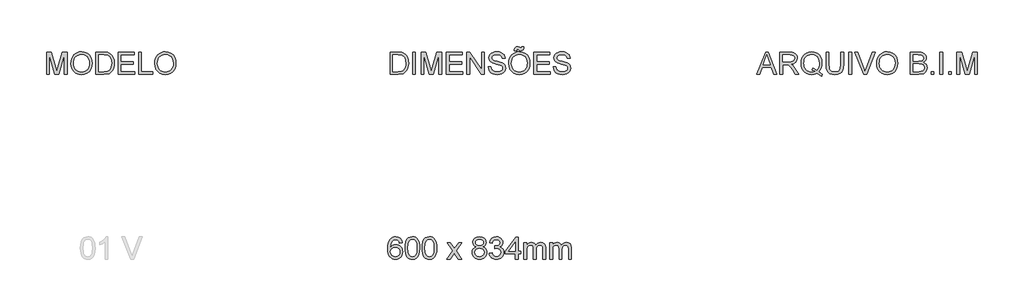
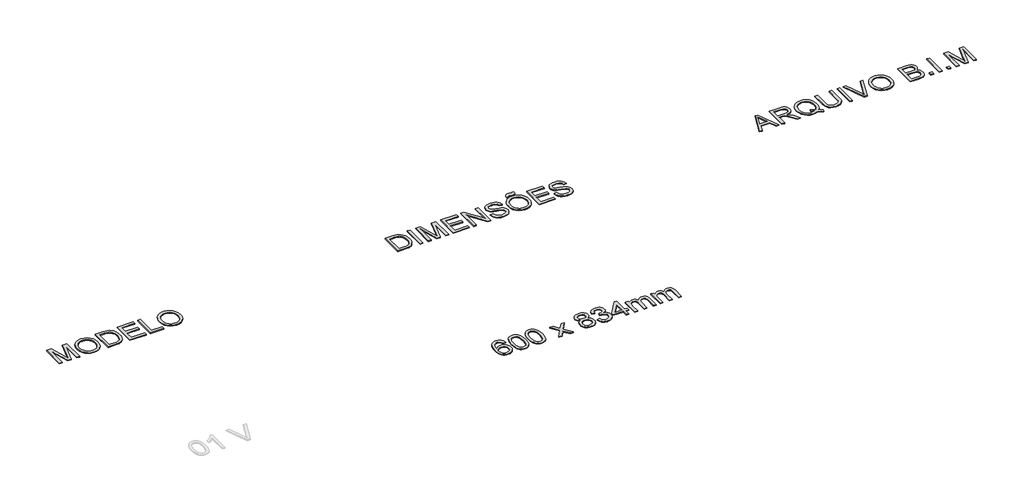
# One storey, part 62 of 67: 4 proxies.
"""IFC4 building model written with IfcOpenShell, lengths in millimetres."""

from ifc_helpers import new_model, si_unit, origin, origin_with_axes, place, context, project, spatial, polyline, outline, extrude, element, save

model = new_model("IFC4")

# Units and contexts
model_context = context("Model", 3, world=origin())
ifc_project = project(units=[si_unit("LENGTHUNIT", "METRE", prefix="MILLI")], contexts=[model_context])

# Site, building, storey
site = spatial("IfcSite", under=ifc_project)
building = spatial("IfcBuilding", under=site)
storey = spatial("IfcBuildingStorey", under=building, Name="Marelli - Linha COLAB - Planta Baixa", Elevation=0.0)

# Proxies
placement = place(None, origin())
element("IfcBuildingElementProxy", 1, Name="300mm Arial", ObjectType="300mm Arial", at=placement, inside=storey, context=model_context, shape_type="SweptSolid", body=[
    extrude(outline(polyline([(-25315.334731, 8719.4336799), (-25315.334731, 9020.8026104), (-25211.3712792, 9020.8026104), (-25157.5869315, 9016.4616028), (-25133.5642372, 9008.0922874), (-25113.2939393, 8994.9037179), (-25092.4534243, 8971.9478814), (-25077.6093858, 8943.4002386), (-25068.7250356, 8909.8126124), (-25065.7635855, 8871.7368259), (-25067.7685424, 8839.3908015), (-25073.783413, 8810.9259321), (-25082.9436747, 8786.6917057), (-25094.3848047, 8767.0376101), (-25107.5549802, 8751.522187), (-25121.902378, 8739.7039779), (-25138.3742943, 8730.9391893), (-25157.9180253, 8724.5840279), (-25206.3680841, 8719.4336799), (-25315.334731, 8719.4336799)]), holes=[polyline([(-25277.6636147, 8757.1047962), (-25211.0033972, 8757.1047962), (-25183.4306417, 8758.4659596), (-25162.5165502, 8762.5494498), (-25146.7344127, 8769.1161434), (-25134.5575186, 8777.9269172), (-25121.4701166, 8794.2332866), (-25111.6384703, 8815.3405161), (-25105.4856439, 8841.3405761), (-25103.4347018, 8872.3254371), (-25107.4538126, 8913.3810678), (-25119.511145, 8943.6945442), (-25137.3258306, 8964.5166651), (-25158.6170011, 8977.0982294), (-25180.2852506, 8981.6231779), (-25212.0334668, 8983.1314941), (-25277.6636147, 8983.1314941), (-25277.6636147, 8757.1047962)])]), origin_with_axes(), (0.0, 0.0, 1.0), 10.0),
    extrude(outline(polyline([(-25009.2569111, 8719.4336799), (-25009.2569111, 9020.8026104), (-24971.5857948, 9020.8026104), (-24971.5857948, 8719.4336799), (-25009.2569111, 8719.4336799)])), origin_with_axes(), (0.0, 0.0, 1.0), 10.0),
    extrude(outline(polyline([(-24896.2435621, 8719.4336799), (-24896.2435621, 9020.8026104), (-24831.4227546, 9020.8026104), (-24769.7657322, 8808.3875464), (-24757.3313208, 8764.0209777), (-24743.8668397, 8812.0663663), (-24683.2398869, 9020.8026104), (-24618.4190794, 9020.8026104), (-24618.4190794, 8719.4336799), (-24656.0901957, 8719.4336799), (-24656.0901957, 8983.1314941), (-24731.8003103, 8719.4336799), (-24782.8623312, 8719.4336799), (-24858.5724458, 8983.1314941), (-24858.5724458, 8719.4336799), (-24896.2435621, 8719.4336799)])), origin_with_axes(), (0.0, 0.0, 1.0), 10.0),
    extrude(outline(polyline([(-24552.4946258, 8719.4336799), (-24552.4946258, 9020.8026104), (-24335.8857071, 9020.8026104), (-24335.8857071, 8983.1314941), (-24514.8235095, 8983.1314941), (-24514.8235095, 8893.6625928), (-24345.3034862, 8893.6625928), (-24345.3034862, 8855.9914765), (-24514.8235095, 8855.9914765), (-24514.8235095, 8757.1047962), (-24331.1768175, 8757.1047962), (-24331.1768175, 8719.4336799), (-24552.4946258, 8719.4336799)])), origin_with_axes(), (0.0, 0.0, 1.0), 10.0),
    extrude(outline(polyline([(-24274.6701431, 8719.4336799), (-24274.6701431, 9020.8026104), (-24234.3502764, 9020.8026104), (-24076.8967825, 8782.0471955), (-24076.8967825, 9020.8026104), (-24039.2256662, 9020.8026104), (-24039.2256662, 8719.4336799), (-24079.5455328, 8719.4336799), (-24236.9990268, 8958.2626712), (-24236.9990268, 8719.4336799), (-24274.6701431, 8719.4336799)])), origin_with_axes(), (0.0, 0.0, 1.0), 10.0),
    extrude(outline(polyline([(-23987.4278813, 8823.0292498), (-23949.7567649, 8823.0292498), (-23945.4341515, 8802.1243554), (-23937.6166591, 8785.3213453), (-23925.421371, 8771.9856229), (-23907.9653703, 8761.482592), (-23886.6282146, 8754.667578), (-23862.7894613, 8752.3959067), (-23841.8017935, 8754.115755), (-23823.4260878, 8759.2753), (-23808.536064, 8767.4422803), (-23798.0054419, 8778.1844346), (-23791.742251, 8790.5176784), (-23789.6545206, 8803.4579276), (-23791.2180191, 8816.067083), (-23795.9085146, 8826.9655871), (-23805.4366582, 8836.2638046), (-23821.5131014, 8844.0720999), (-23876.3643069, 8858.4562859), (-23912.3707572, 8867.9752325), (-23935.4093671, 8877.0343267), (-23954.1621518, 8889.7078614), (-23967.4518889, 8905.0669347), (-23975.3705489, 8922.7804528), (-23978.0101022, 8942.5173218), (-23974.7451495, 8964.5810445), (-23964.9502913, 8985.154845), (-23948.8830452, 9002.5924516), (-23926.8009284, 9015.2475923), (-23900.2950307, 9022.945523), (-23870.9564416, 9025.5114999), (-23839.1714372, 9022.8259614), (-23811.3595584, 9014.7693457), (-23788.5140865, 9001.5071997), (-23771.6283029, 8983.2050705), (-23760.9413309, 8961.0033921), (-23756.6922939, 8936.0425987), (-23794.3634102, 8936.0425987), (-23801.2795917, 8958.5201886), (-23815.7005659, 8974.7437846), (-23838.2333381, 8984.5662339), (-23869.4849136, 8987.8403836), (-23901.4722531, 8984.6030221), (-23923.4164141, 8974.8909374), (-23936.1083429, 8960.5987219), (-23940.3389859, 8943.6209678), (-23937.3407476, 8929.1448113), (-23928.3460328, 8917.5013461), (-23907.0824535, 8907.0902857), (-23866.8361632, 8896.458496), (-23825.302286, 8886.3601352), (-23800.1759457, 8877.5493615), (-23778.7008342, 8863.8825453), (-23763.71884, 8847.0151559), (-23754.9172633, 8827.131134), (-23751.9834043, 8804.4144208), (-23755.3587216, 8781.1918699), (-23765.4846736, 8759.3488764), (-23781.9473928, 8740.5501065), (-23804.3330123, 8726.460226), (-23831.2527773, 8717.6586493), (-23861.3179333, 8714.7247904), (-23898.2256945, 8717.8885756), (-23928.6035502, 8727.379931), (-23952.8009885, 8743.235645), (-23971.1674971, 8765.4925057), (-23982.958115, 8792.6054088), (-23987.4278813, 8823.0292498)])), origin_with_axes(), (0.0, 0.0, 1.0), 10.0),
    extrude(outline(polyline([(-23709.6033985, 8866.1450196), (-23707.0926039, 8901.4938808), (-23699.56022, 8932.786843), (-23687.0062469, 8960.0239063), (-23669.4306846, 8983.2050705), (-23647.8865953, 9001.7141334), (-23623.4270411, 9014.9348926), (-23596.0520222, 9022.8673481), (-23565.7615384, 9025.5114999), (-23526.232618, 9020.545093), (-23490.7871878, 9005.6458722), (-23461.3566282, 8981.8623012), (-23439.8723196, 8950.2428437), (-23426.7389324, 8912.31421), (-23422.3611367, 8869.6031104), (-23426.9688587, 8826.3217936), (-23440.7920246, 8787.859731), (-23463.0672794, 8756.1850913), (-23493.0312679, 8733.266043), (-23528.1731955, 8719.3601035), (-23565.9822676, 8714.7247904), (-23606.1181933, 8719.8475472), (-23641.7659586, 8735.2158175), (-23671.1229418, 8759.4408469), (-23692.3865211, 8791.1338808), (-23705.2991792, 8827.6001836), (-23709.6033985, 8866.1450196)]), holes=[polyline([(-23671.9322822, 8865.7771376), (-23670.0491862, 8840.8025487), (-23664.3998983, 8818.6330599), (-23654.9844185, 8799.2686714), (-23641.8027468, 8782.7093831), (-23625.7791866, 8769.4472372), (-23607.8380416, 8759.9742758), (-23587.9793116, 8754.290499), (-23566.2029968, 8752.3959067), (-23544.0542014, 8754.3088931), (-23523.9609467, 8760.0478522), (-23505.9232326, 8769.6127841), (-23489.9410592, 8783.0036887), (-23476.8559565, 8799.9124649), (-23467.5094545, 8820.0310115), (-23461.9015534, 8843.3593285), (-23460.032253, 8869.897416), (-23463.2328263, 8903.2459188), (-23472.8345464, 8932.0694731), (-23488.5890928, 8955.641512), (-23510.2481453, 8973.2354684), (-23536.376964, 8984.1891548), (-23565.5408092, 8987.8403836), (-23586.5606667, 8986.0814478), (-23606.063011, 8980.8046405), (-23624.047842, 8972.0099615), (-23640.5151598, 8959.697411), (-23654.2601508, 8943.2737792), (-23664.0780016, 8922.1458563), (-23669.968712, 8896.3136425), (-23671.9322822, 8865.7771376)])]), origin_with_axes(), (0.0, 0.0, 1.0), 10.0),
    extrude(outline(polyline([(-23634.2611659, 9039.6381685), (-23631.4100804, 9062.7963401), (-23622.5625184, 9080.7673756), (-23609.2267961, 9092.3004761), (-23592.616924, 9096.144843), (-23578.7109846, 9093.1098165), (-23562.4506004, 9084.0047372), (-23547.2202858, 9077.3092848), (-23539.2372465, 9081.0984694), (-23535.3744856, 9096.144843), (-23502.4122588, 9096.144843), (-23505.6956056, 9071.4231729), (-23514.3684237, 9053.7648371), (-23527.2718846, 9043.1698357), (-23543.2471603, 9039.6381685), (-23557.2450702, 9042.5076481), (-23573.0456019, 9051.1160868), (-23588.9381041, 9058.4737267), (-23597.9144248, 9053.6912607), (-23601.2989391, 9039.6381685), (-23634.2611659, 9039.6381685)])), origin_with_axes(), (0.0, 0.0, 1.0), 10.0),
    extrude(outline(polyline([(-23370.5633517, 8719.4336799), (-23370.5633517, 9020.8026104), (-23153.954433, 9020.8026104), (-23153.954433, 8983.1314941), (-23332.8922354, 8983.1314941), (-23332.8922354, 8893.6625928), (-23163.3722121, 8893.6625928), (-23163.3722121, 8855.9914765), (-23332.8922354, 8855.9914765), (-23332.8922354, 8757.1047962), (-23149.2455434, 8757.1047962), (-23149.2455434, 8719.4336799), (-23370.5633517, 8719.4336799)])), origin_with_axes(), (0.0, 0.0, 1.0), 10.0),
    extrude(outline(polyline([(-23106.8655376, 8823.0292498), (-23069.1944213, 8823.0292498), (-23064.8718078, 8802.1243554), (-23057.0543155, 8785.3213453), (-23044.8590273, 8771.9856229), (-23027.4030266, 8761.482592), (-23006.0658709, 8754.667578), (-22982.2271176, 8752.3959067), (-22961.2394498, 8754.115755), (-22942.8637441, 8759.2753), (-22927.9737204, 8767.4422803), (-22917.4430983, 8778.1844346), (-22911.1799073, 8790.5176784), (-22909.092177, 8803.4579276), (-22910.6556755, 8816.067083), (-22915.3461709, 8826.9655871), (-22924.8743146, 8836.2638046), (-22940.9507578, 8844.0720999), (-22995.8019633, 8858.4562859), (-23031.8084135, 8867.9752325), (-23054.8470235, 8877.0343267), (-23073.5998082, 8889.7078614), (-23086.8895453, 8905.0669347), (-23094.8082052, 8922.7804528), (-23097.4477585, 8942.5173218), (-23094.1828058, 8964.5810445), (-23084.3879477, 8985.154845), (-23068.3207016, 9002.5924516), (-23046.2385848, 9015.2475923), (-23019.732687, 9022.945523), (-22990.3940979, 9025.5114999), (-22958.6090935, 9022.8259614), (-22930.7972147, 9014.7693457), (-22907.9517428, 9001.5071997), (-22891.0659592, 8983.2050705), (-22880.3789873, 8961.0033921), (-22876.1299502, 8936.0425987), (-22913.8010665, 8936.0425987), (-22920.717248, 8958.5201886), (-22935.1382223, 8974.7437846), (-22957.6709945, 8984.5662339), (-22988.9225699, 8987.8403836), (-23020.9099094, 8984.6030221), (-23042.8540704, 8974.8909374), (-23055.5459993, 8960.5987219), (-23059.7766422, 8943.6209678), (-23056.778404, 8929.1448113), (-23047.7836892, 8917.5013461), (-23026.5201099, 8907.0902857), (-22986.2738196, 8896.458496), (-22944.7399423, 8886.3601352), (-22919.6136021, 8877.5493615), (-22898.1384906, 8863.8825453), (-22883.1564963, 8847.0151559), (-22874.3549196, 8827.131134), (-22871.4210607, 8804.4144208), (-22874.796378, 8781.1918699), (-22884.9223299, 8759.3488764), (-22901.3850492, 8740.5501065), (-22923.7706686, 8726.460226), (-22950.6904336, 8717.6586493), (-22980.7555897, 8714.7247904), (-23017.6633508, 8717.8885756), (-23048.0412066, 8727.379931), (-23072.2386448, 8743.235645), (-23090.6051534, 8765.4925057), (-23102.3957714, 8792.6054088), (-23106.8655376, 8823.0292498)])), origin_with_axes(), (0.0, 0.0, 1.0), 10.0),
])
element("IfcBuildingElementProxy", 2, Name="300mm Arial", ObjectType="300mm Arial", at=placement, inside=storey, context=model_context, shape_type="SweptSolid", body=[
    extrude(outline(polyline([(-20350.420501, 8719.4336799), (-20230.1230886, 9020.8026104), (-20198.0437786, 9020.8026104), (-20077.7463662, 8719.4336799), (-20117.551198, 8719.4336799), (-20152.0585292, 8813.6114707), (-20276.1819143, 8813.6114707), (-20310.6156691, 8719.4336799), (-20350.420501, 8719.4336799)]), holes=[polyline([(-20262.3495513, 8851.282587), (-20165.8173158, 8851.282587), (-20192.967007, 8925.3740208), (-20214.0834336, 8983.1314941), (-20232.8454153, 8931.8487439), (-20262.3495513, 8851.282587)])]), origin_with_axes(), (0.0, 0.0, 1.0), 10.0),
    extrude(outline(polyline([(-20037.5000759, 8719.4336799), (-20037.5000759, 9020.8026104), (-19907.6377316, 9020.8026104), (-19872.7349273, 9018.7700624), (-19847.3418726, 9012.6724183), (-19828.7822259, 9001.4152292), (-19814.3796458, 8983.9040463), (-19805.1366107, 8962.1898115), (-19802.055599, 8938.3234671), (-19807.1599616, 8908.6353901), (-19822.4730497, 8884.0240846), (-19834.0728289, 8873.9947017), (-19848.4547156, 8865.9794727), (-19885.5648119, 8855.9914765), (-19864.1540798, 8839.8782452), (-19833.6198742, 8801.1034829), (-19783.3671936, 8719.4336799), (-19827.145151, 8719.4336799), (-19866.3613717, 8781.9000427), (-19894.6882854, 8823.249979), (-19914.5907013, 8842.7845129), (-19932.5065545, 8849.9582118), (-19954.358745, 8851.282587), (-19999.8289596, 8851.282587), (-19999.8289596, 8719.4336799), (-20037.5000759, 8719.4336799)]), holes=[polyline([(-19999.8289596, 8888.9537033), (-19915.5104063, 8888.9537033), (-19891.2945739, 8890.2872755), (-19872.505001, 8894.2879922), (-19858.3599383, 8901.2225678), (-19848.0776366, 8911.3577168), (-19841.8144456, 8923.6173843), (-19839.7267153, 8936.9255155), (-19843.7090379, 8955.3012211), (-19855.6560057, 8970.1084714), (-19876.2114121, 8979.8757384), (-19906.0190508, 8983.1314941), (-19999.8289596, 8983.1314941), (-19999.8289596, 8888.9537033)])]), origin_with_axes(), (0.0, 0.0, 1.0), 10.0),
    extrude(outline(polyline([(-19509.7365656, 8755.5596919), (-19485.4011716, 8736.963257), (-19463.0155522, 8724.1425695), (-19473.1690953, 8696.5514198), (-19504.2367298, 8710.9539999), (-19535.1939997, 8731.794515), (-19570.0508187, 8718.9922215), (-19608.4025167, 8714.7247904), (-19646.9381557, 8719.6452121), (-19681.7581865, 8734.4064771), (-19710.9220317, 8758.0796835), (-19732.4891137, 8789.7359292), (-19745.815639, 8827.6369718), (-19750.257814, 8870.0445688), (-19745.824836, 8912.488954), (-19732.5259019, 8950.9418195), (-19711.0415934, 8983.0487206), (-19682.0524921, 9006.4552126), (-19647.36122, 9020.7474281), (-19608.7703987, 9025.5114999), (-19569.8760748, 9020.6370635), (-19535.0100587, 9006.0137542), (-19506.0669427, 8982.6164593), (-19484.9413191, 8951.4200661), (-19472.0286611, 8914.0800436), (-19467.7244417, 8872.2518607), (-19470.3364039, 8837.4686181), (-19478.1722904, 8806.4009836), (-19491.2872835, 8779.0857454), (-19509.7365656, 8755.5596919)]), holes=[polyline([(-19598.0282444, 8805.6652196), (-19566.3536047, 8793.6906607), (-19540.785806, 8777.0440004), (-19525.3025725, 8794.5183951), (-19514.24312, 8815.8923391), (-19507.6074486, 8841.1658321), (-19505.3955581, 8870.3388744), (-19508.522555, 8903.4942392), (-19517.9035459, 8932.1798377), (-19533.3086044, 8955.6691031), (-19554.5078044, 8973.2354684), (-19580.066406, 8984.1891548), (-19608.5496695, 8987.8403836), (-19630.033978, 8985.9940758), (-19649.6053002, 8980.4551526), (-19667.2636359, 8971.2236137), (-19683.0089853, 8958.2994594), (-19695.9492345, 8941.7102807), (-19705.1922696, 8921.4836687), (-19710.7380907, 8897.6196236), (-19712.5866977, 8870.1181452), (-19710.7587841, 8843.3340366), (-19705.2750431, 8819.8562676), (-19696.1354748, 8799.6848379), (-19683.3400791, 8782.8197477), (-19667.7027951, 8769.5093173), (-19650.0375615, 8760.001867), (-19630.3443785, 8754.2973968), (-19608.6232459, 8752.3959067), (-19587.7091545, 8754.3272872), (-19568.08265, 8760.1214286), (-19587.3780607, 8770.146213), (-19607.7403291, 8776.8232712), (-19598.0282444, 8805.6652196)])]), origin_with_axes(), (0.0, 0.0, 1.0), 10.0),
    extrude(outline(polyline([(-19213.4444067, 9020.8026104), (-19175.7732904, 9020.8026104), (-19175.7732904, 8846.9415795), (-19178.3300702, 8806.2262396), (-19186.0004098, 8774.8734966), (-19200.3294136, 8750.6852554), (-19222.8621858, 8731.4634212), (-19253.6539088, 8718.9094481), (-19292.7597648, 8714.7247904), (-19331.0102953, 8718.3668221), (-19361.5904861, 8729.2929174), (-19384.5095344, 8747.1259971), (-19399.7766372, 8771.4889822), (-19408.3574848, 8804.1661005), (-19411.2177673, 8846.9415795), (-19411.2177673, 9020.8026104), (-19373.546651, 9020.8026104), (-19373.546651, 8848.2659546), (-19371.6888469, 8814.411614), (-19366.1154347, 8790.8395752), (-19356.0170739, 8774.5148117), (-19340.5844242, 8762.402297), (-19320.4612791, 8754.8975043), (-19296.291432, 8752.3959067), (-19257.9765222, 8757.3439195), (-19243.6337229, 8763.5289356), (-19232.500694, 8772.187958), (-19224.1635683, 8784.3648521), (-19218.2084785, 8801.1034829), (-19213.4444067, 8848.2659546), (-19213.4444067, 9020.8026104)])), origin_with_axes(), (0.0, 0.0, 1.0), 10.0),
    extrude(outline(polyline([(-19105.1399473, 8719.4336799), (-19105.1399473, 9020.8026104), (-19067.468831, 9020.8026104), (-19067.468831, 8719.4336799), (-19105.1399473, 8719.4336799)])), origin_with_axes(), (0.0, 0.0, 1.0), 10.0),
    extrude(outline(polyline([(-18903.0991556, 8719.4336799), (-19023.028686, 9020.8026104), (-18982.7088193, 9020.8026104), (-18902.436968, 8803.6786568), (-18886.1765838, 8754.7503515), (-18870.1369288, 8803.6786568), (-18789.6443482, 9020.8026104), (-18749.3244816, 9020.8026104), (-18864.1772405, 8719.4336799), (-18903.0991556, 8719.4336799)])), origin_with_axes(), (0.0, 0.0, 1.0), 10.0),
    extrude(outline(polyline([(-18728.4287842, 8866.1450196), (-18725.9179896, 8901.4938808), (-18718.3856058, 8932.786843), (-18705.8316327, 8960.0239063), (-18688.2560704, 8983.2050705), (-18666.711981, 9001.7141334), (-18642.2524269, 9014.9348926), (-18614.8774079, 9022.8673481), (-18584.5869241, 9025.5114999), (-18545.0580037, 9020.545093), (-18509.6125735, 9005.6458722), (-18480.1820139, 8981.8623012), (-18458.6977054, 8950.2428437), (-18445.5643181, 8912.31421), (-18441.1865224, 8869.6031104), (-18445.7942444, 8826.3217936), (-18459.6174104, 8787.859731), (-18481.8926652, 8756.1850913), (-18511.8566537, 8733.266043), (-18546.9985813, 8719.3601035), (-18584.8076533, 8714.7247904), (-18624.943579, 8719.8475472), (-18660.5913443, 8735.2158175), (-18689.9483275, 8759.4408469), (-18711.2119069, 8791.1338808), (-18724.1245649, 8827.6001836), (-18728.4287842, 8866.1450196)]), holes=[polyline([(-18690.7576679, 8865.7771376), (-18688.874572, 8840.8025487), (-18683.2252841, 8818.6330599), (-18673.8098043, 8799.2686714), (-18660.6281325, 8782.7093831), (-18644.6045724, 8769.4472372), (-18626.6634273, 8759.9742758), (-18606.8046974, 8754.290499), (-18585.0283825, 8752.3959067), (-18562.8795871, 8754.3088931), (-18542.7863324, 8760.0478522), (-18524.7486183, 8769.6127841), (-18508.7664449, 8783.0036887), (-18495.6813422, 8799.9124649), (-18486.3348403, 8820.0310115), (-18480.7269391, 8843.3593285), (-18478.8576387, 8869.897416), (-18482.0582121, 8903.2459188), (-18491.6599321, 8932.0694731), (-18507.4144786, 8955.641512), (-18529.0735311, 8973.2354684), (-18555.2023498, 8984.1891548), (-18584.3661949, 8987.8403836), (-18605.3860524, 8986.0814478), (-18624.8883967, 8980.8046405), (-18642.8732277, 8972.0099615), (-18659.3405455, 8959.697411), (-18673.0855366, 8943.2737792), (-18682.9033873, 8922.1458563), (-18688.7940978, 8896.3136425), (-18690.7576679, 8865.7771376)])]), origin_with_axes(), (0.0, 0.0, 1.0), 10.0),
    extrude(outline(polyline([(-18271.666499, 8719.4336799), (-18271.666499, 9020.8026104), (-18156.6665873, 9020.8026104), (-18125.0379328, 9018.5861214), (-18100.3438539, 9011.9366543), (-18081.4163252, 9000.6886623), (-18067.0873215, 8984.6765985), (-18058.0650156, 8965.8410403), (-18055.0575803, 8946.1225654), (-18057.586769, 8927.9767859), (-18065.1743351, 8910.9162584), (-18077.875461, 8895.9894465), (-18095.7453289, 8884.2448138), (-18074.3989762, 8873.0979893), (-18058.6260356, 8856.1386293), (-18048.8863598, 8834.4887739), (-18045.6398012, 8809.2704632), (-18047.8562902, 8788.2552042), (-18054.5057573, 8768.7666555), (-18064.4293741, 8752.1935716), (-18076.4683124, 8739.9247071), (-18091.2111833, 8731.0403569), (-18109.2465982, 8724.6208161), (-18157.5495041, 8719.4336799), (-18271.666499, 8719.4336799)]), holes=[polyline([(-18233.9953827, 8898.3714824), (-18165.2014496, 8898.3714824), (-18125.0287358, 8901.6088439), (-18110.9664465, 8907.1914532), (-18100.8588887, 8915.5515716), (-18094.7612446, 8926.5604403), (-18092.7286966, 8940.0893006), (-18094.6232889, 8953.2226879), (-18100.3070657, 8964.6638179), (-18109.5225097, 8973.5941533), (-18122.0121034, 8979.1951567), (-18170.425374, 8983.1314941), (-18233.9953827, 8983.1314941), (-18233.9953827, 8898.3714824)]), polyline([(-18233.9953827, 8757.1047962), (-18156.7401637, 8757.1047962), (-18128.7811321, 8758.5763242), (-18105.1263198, 8766.7800927), (-18089.4545468, 8783.5187235), (-18084.8468248, 8795.3461296), (-18083.3109175, 8808.9025812), (-18085.1135393, 8824.6479306), (-18090.5214046, 8838.185988), (-18099.9667748, 8848.7717924), (-18113.8819113, 8855.6603827), (-18133.5911892, 8859.4403702), (-18160.4189837, 8860.7003661), (-18233.9953827, 8860.7003661), (-18233.9953827, 8757.1047962)])]), origin_with_axes(), (0.0, 0.0, 1.0), 10.0),
    extrude(outline(polyline([(-17989.1331267, 8719.4336799), (-17989.1331267, 8757.1047962), (-17951.4620104, 8757.1047962), (-17951.4620104, 8719.4336799), (-17989.1331267, 8719.4336799)])), origin_with_axes(), (0.0, 0.0, 1.0), 10.0),
    extrude(outline(polyline([(-17871.4108883, 8719.4336799), (-17871.4108883, 9020.8026104), (-17833.739772, 9020.8026104), (-17833.739772, 8719.4336799), (-17871.4108883, 8719.4336799)])), origin_with_axes(), (0.0, 0.0, 1.0), 10.0),
    extrude(outline(polyline([(-17753.6886498, 8719.4336799), (-17753.6886498, 8757.1047962), (-17716.0175335, 8757.1047962), (-17716.0175335, 8719.4336799), (-17753.6886498, 8719.4336799)])), origin_with_axes(), (0.0, 0.0, 1.0), 10.0),
    extrude(outline(polyline([(-17640.6753009, 8719.4336799), (-17640.6753009, 9020.8026104), (-17575.8544934, 9020.8026104), (-17514.197471, 8808.3875464), (-17501.7630595, 8764.0209777), (-17488.2985785, 8812.0663663), (-17427.6716257, 9020.8026104), (-17362.8508181, 9020.8026104), (-17362.8508181, 8719.4336799), (-17400.5219345, 8719.4336799), (-17400.5219345, 8983.1314941), (-17476.2320491, 8719.4336799), (-17527.29407, 8719.4336799), (-17603.0041846, 8983.1314941), (-17603.0041846, 8719.4336799), (-17640.6753009, 8719.4336799)])), origin_with_axes(), (0.0, 0.0, 1.0), 10.0),
])
element("IfcBuildingElementProxy", 3, Name="300mm Arial", ObjectType="300mm Arial", at=placement, inside=storey, context=model_context, shape_type="SweptSolid", body=[
    extrude(outline(polyline([(-25150.5235972, 6440.7514882), (-25188.1947135, 6436.0425987), (-25194.2647664, 6454.7126099), (-25202.4685349, 6467.4597211), (-25219.5566536, 6479.2135508), (-25240.2132276, 6483.1314941), (-25257.7244106, 6480.8506257), (-25274.205524, 6474.0080206), (-25288.3597837, 6459.5962434), (-25299.9204754, 6439.7582068), (-25307.7287708, 6411.6980077), (-25310.6258415, 6372.6197427), (-25295.5150886, 6390.2504873), (-25277.4060973, 6402.6757017), (-25257.3105434, 6410.0425387), (-25236.2401021, 6412.498151), (-25218.1403079, 6410.8196894), (-25201.4384653, 6405.7843046), (-25186.1345743, 6397.3919966), (-25172.2286349, 6385.6427654), (-25160.6725417, 6371.2355867), (-25152.4181895, 6354.8694365), (-25147.4655781, 6336.5443146), (-25145.8147077, 6316.2602211), (-25148.9233105, 6289.2852738), (-25158.2491191, 6264.2784951), (-25173.0195812, 6243.0700981), (-25192.4621447, 6227.4902956), (-25215.6938927, 6217.9161667), (-25241.8319084, 6214.7247904), (-25264.288805, 6216.8401119), (-25284.5705992, 6223.1860763), (-25302.6772911, 6233.7626836), (-25318.6088808, 6248.5699339), (-25331.5974145, 6268.2332266), (-25340.8749386, 6293.377961), (-25346.441453, 6324.0041371), (-25348.2969578, 6360.1117549), (-25346.2368186, 6400.5925699), (-25340.0564011, 6435.1412878), (-25329.7557053, 6463.7579085), (-25315.334731, 6486.442432), (-25299.7043448, 6501.4750101), (-25281.581558, 6512.2125658), (-25260.9663707, 6518.6550992), (-25237.8587829, 6520.8026104), (-25204.8045856, 6515.4867156), (-25178.335476, 6499.5390311), (-25159.7942235, 6474.2103557), (-25150.5235972, 6440.7514882)]), holes=[polyline([(-25310.6258415, 6316.8488323), (-25308.4461407, 6300.1561867), (-25301.9070382, 6284.2176993), (-25291.7534952, 6270.514095), (-25278.7304725, 6260.5260988), (-25263.0127143, 6254.4284547), (-25244.7749644, 6252.3959067), (-25219.9153385, 6256.6081555), (-25200.3716076, 6269.2449021), (-25187.7072699, 6289.1105298), (-25183.485824, 6315.0094223), (-25187.6520876, 6339.8690481), (-25200.1508784, 6358.8241679), (-25220.0257031, 6370.826318), (-25246.3200687, 6374.8270347), (-25271.1429064, 6370.826318), (-25291.900648, 6358.8241679), (-25305.9445431, 6340.3289006), (-25310.6258415, 6316.8488323)])]), origin_with_axes(), (0.0, 0.0, 1.0), 10.0),
    extrude(outline(polyline([(-25112.8524809, 6367.690124), (-25110.0841689, 6415.9286506), (-25101.7792328, 6454.3999103), (-25088.0204462, 6483.6925141), (-25068.8905825, 6504.3950734), (-25044.2516858, 6516.7007261), (-25013.9658006, 6520.8026104), (-24990.7524467, 6518.3745892), (-24969.967114, 6511.0905257), (-24952.5846897, 6499.2355284), (-24939.5800612, 6483.0947059), (-24929.7576119, 6462.8060138), (-24921.9217254, 6438.5074081), (-24916.7897716, 6407.6513057), (-24915.0791203, 6367.690124), (-24917.8198412, 6319.7275089), (-24926.0420037, 6281.3482197), (-24939.7180169, 6252.0280247), (-24958.8202895, 6231.242692), (-24983.5143684, 6218.8542658), (-25013.9658006, 6214.7247904), (-25034.7143451, 6216.5182151), (-25053.1084449, 6221.8984893), (-25069.1480999, 6230.8656129), (-25082.8333101, 6243.419586), (-25095.9666973, 6266.1133066), (-25105.3476882, 6294.3896364), (-25110.9762827, 6328.2485756), (-25112.8524809, 6367.690124)]), holes=[polyline([(-25075.1813646, 6367.7637004), (-25070.7667807, 6308.507108), (-25065.2485507, 6288.2391093), (-25057.5230288, 6274.211309), (-25037.8045539, 6257.8497573), (-25013.9658006, 6252.3959067), (-24990.1270473, 6257.8681514), (-24970.4085724, 6274.2848854), (-24962.6830505, 6288.3356784), (-24957.1648205, 6308.5990785), (-24952.7502366, 6367.7637004), (-24957.0176677, 6425.6867205), (-24962.3519567, 6445.8880406), (-24969.8199612, 6460.249234), (-24989.5016479, 6477.410929), (-25014.407259, 6483.1314941), (-25037.9884949, 6478.0915107), (-25056.9344176, 6462.9715607), (-25064.9174569, 6447.3365759), (-25070.6196279, 6426.2569376), (-25075.1813646, 6367.7637004)])]), origin_with_axes(), (0.0, 0.0, 1.0), 10.0),
    extrude(outline(polyline([(-24882.1168935, 6367.690124), (-24879.3485815, 6415.9286506), (-24871.0436455, 6454.3999103), (-24857.2848588, 6483.6925141), (-24838.1549951, 6504.3950734), (-24813.5160985, 6516.7007261), (-24783.2302132, 6520.8026104), (-24760.0168593, 6518.3745892), (-24739.2315266, 6511.0905257), (-24721.8491023, 6499.2355284), (-24708.8444738, 6483.0947059), (-24699.0220245, 6462.8060138), (-24691.186138, 6438.5074081), (-24686.0541842, 6407.6513057), (-24684.3435329, 6367.690124), (-24687.0842538, 6319.7275089), (-24695.3064164, 6281.3482197), (-24708.9824295, 6252.0280247), (-24728.0847021, 6231.242692), (-24752.7787811, 6218.8542658), (-24783.2302132, 6214.7247904), (-24803.9787577, 6216.5182151), (-24822.3728575, 6221.8984893), (-24838.4125125, 6230.8656129), (-24852.0977227, 6243.419586), (-24865.2311099, 6266.1133066), (-24874.6121008, 6294.3896364), (-24880.2406953, 6328.2485756), (-24882.1168935, 6367.690124)]), holes=[polyline([(-24844.4457772, 6367.7637004), (-24840.0311933, 6308.507108), (-24834.5129633, 6288.2391093), (-24826.7874414, 6274.211309), (-24807.0689665, 6257.8497573), (-24783.2302132, 6252.3959067), (-24759.3914599, 6257.8681514), (-24739.672985, 6274.2848854), (-24731.9474631, 6288.3356784), (-24726.4292332, 6308.5990785), (-24722.0146492, 6367.7637004), (-24726.2820804, 6425.6867205), (-24731.6163693, 6445.8880406), (-24739.0843738, 6460.249234), (-24758.7660605, 6477.410929), (-24783.6716716, 6483.1314941), (-24807.2529075, 6478.0915107), (-24826.1988303, 6462.9715607), (-24834.1818696, 6447.3365759), (-24839.8840405, 6426.2569376), (-24844.4457772, 6367.7637004)])]), origin_with_axes(), (0.0, 0.0, 1.0), 10.0),
    extrude(outline(polyline([(-24547.7857363, 6219.4336799), (-24467.2931558, 6330.6811953), (-24543.0768468, 6440.7514882), (-24497.753785, 6440.7514882), (-24461.1863146, 6387.7764809), (-24444.1165901, 6362.7605053), (-24429.3277339, 6383.2147442), (-24387.683492, 6440.7514882), (-24342.3604302, 6440.7514882), (-24421.970094, 6330.6811953), (-24345.3034862, 6219.4336799), (-24390.626548, 6219.4336799), (-24436.7589502, 6286.3146267), (-24445.2202361, 6298.5283089), (-24502.4626745, 6219.4336799), (-24547.7857363, 6219.4336799)])), origin_with_axes(), (0.0, 0.0, 1.0), 10.0),
    extrude(outline(polyline([(-24149.1488063, 6385.4220362), (-24169.3179367, 6395.35485), (-24183.4721965, 6408.819331), (-24191.8323148, 6425.5395677), (-24194.6190209, 6445.2396486), (-24193.1015077, 6460.6033204), (-24188.548968, 6474.6886023), (-24180.9614019, 6487.4954942), (-24170.3388093, 6499.0239963), (-24157.1916265, 6508.5521399), (-24142.0302897, 6515.3579569), (-24105.6651545, 6520.8026104), (-24069.0792901, 6515.2291982), (-24053.7524065, 6508.2624329), (-24040.4028886, 6498.5089615), (-24029.5871579, 6486.7551317), (-24021.861636, 6473.7872914), (-24017.2263229, 6459.6054405), (-24015.6812185, 6444.209579), (-24018.4311364, 6425.1440946), (-24026.6808901, 6408.7089665), (-24040.5224502, 6395.3272589), (-24060.0477871, 6385.4220362), (-24036.8620244, 6373.4750684), (-24019.9854378, 6355.8811119), (-24009.693939, 6333.4862955), (-24006.2634394, 6307.1367476), (-24007.9648936, 6288.3471747), (-24013.0692563, 6271.1211003), (-24021.5765275, 6255.4585243), (-24033.4867071, 6241.3594468), (-24048.1743957, 6229.7067846), (-24065.014194, 6221.3834545), (-24084.006102, 6216.3894564), (-24105.1501197, 6214.7247904), (-24126.2941374, 6216.3963542), (-24145.2860454, 6221.4110457), (-24162.1258437, 6229.7688647), (-24176.8135324, 6241.4698114), (-24188.723712, 6255.6677572), (-24197.2309831, 6271.5165734), (-24202.3353458, 6289.0162601), (-24204.0368, 6308.1668172), (-24200.4683447, 6335.5372376), (-24189.7629786, 6358.0516157), (-24172.4725248, 6374.9373993), (-24149.1488063, 6385.4220362)]), holes=[polyline([(-24156.9479046, 6444.1360026), (-24153.6093755, 6427.6916774), (-24143.5937882, 6414.5582902), (-24127.1954483, 6405.9498515), (-24104.7086613, 6403.0803719), (-24082.7461062, 6405.9314574), (-24066.5960866, 6414.4847138), (-24056.6632727, 6427.1766426), (-24053.3523348, 6442.4437454), (-24056.7736373, 6458.2902624), (-24067.037545, 6471.3960584), (-24083.4082938, 6480.1976352), (-24105.1501197, 6483.1314941), (-24127.0299014, 6480.2620145), (-24143.373059, 6471.6535758), (-24153.5541932, 6459.0352234), (-24156.9479046, 6444.1360026)]), polyline([(-24166.3656837, 6309.4911924), (-24160.0749016, 6281.1274905), (-24151.3652954, 6268.9597935), (-24137.8180409, 6259.9006994), (-24121.5944449, 6254.2721049), (-24104.8558141, 6252.3959067), (-24079.2144391, 6256.3414411), (-24059.9742107, 6268.1780443), (-24047.9444695, 6286.1030945), (-24043.9345557, 6308.31397), (-24048.0732282, 6330.9019245), (-24060.4892455, 6349.2224478), (-24080.1709322, 6361.3625537), (-24106.1066129, 6365.4092556), (-24131.389303, 6361.417736), (-24150.4363933, 6349.443177), (-24162.3833611, 6331.4721416), (-24166.3656837, 6309.4911924)])]), origin_with_axes(), (0.0, 0.0, 1.0), 10.0),
    extrude(outline(polyline([(-23973.3012126, 6299.4848021), (-23935.6300963, 6304.1936916), (-23927.1964016, 6280.5204852), (-23914.8447636, 6264.5360125), (-23897.9681771, 6255.4309332), (-23875.9596367, 6252.3959067), (-23850.1343207, 6256.5713673), (-23830.1951165, 6269.0977493), (-23817.4480054, 6287.7861546), (-23813.1989683, 6310.4476855), (-23817.4112172, 6331.9595852), (-23830.0479637, 6349.4063888), (-23849.1778275, 6360.9670805), (-23872.869428, 6364.8206444), (-23899.2833552, 6360.7003661), (-23895.0895005, 6398.3714824), (-23889.0562357, 6397.930024), (-23866.4866753, 6400.6339567), (-23846.3083479, 6408.7457546), (-23832.0713147, 6422.4677531), (-23827.325637, 6442.002287), (-23830.7653336, 6458.2718683), (-23841.0844236, 6471.4696348), (-23856.829773, 6480.2160293), (-23876.5482479, 6483.1314941), (-23896.303511, 6480.1884381), (-23912.4535306, 6471.3592702), (-23924.2441486, 6456.6439904), (-23930.9212068, 6436.0425987), (-23968.5923231, 6440.7514882), (-23957.5006809, 6474.5782377), (-23937.7638119, 6499.8333367), (-23910.7612735, 6515.5602919), (-23877.8726231, 6520.8026104), (-23854.1902197, 6518.2182394), (-23832.4391967, 6510.4651263), (-23814.1002792, 6498.23305), (-23800.6541923, 6482.2117891), (-23792.4044386, 6463.75331), (-23789.6545206, 6444.209579), (-23792.2664828, 6425.9994202), (-23800.1023693, 6409.4815186), (-23813.0518155, 6395.4100323), (-23831.0044569, 6384.5391194), (-23807.423221, 6375.0109757), (-23789.9488262, 6358.7873797), (-23779.1330956, 6336.7512482), (-23775.527852, 6309.7854979), (-23777.3304738, 6290.6740283), (-23782.7383391, 6273.0708748), (-23791.751448, 6256.9760375), (-23804.3698005, 6242.3895164), (-23819.7426693, 6230.2861988), (-23837.0193275, 6221.6409719), (-23856.199775, 6216.4538358), (-23877.2840119, 6214.7247904), (-23896.3402992, 6216.2009169), (-23913.7043294, 6220.6292964), (-23929.3761024, 6228.0099289), (-23943.3556182, 6238.3428145), (-23955.0772583, 6251.0209477), (-23963.9754041, 6265.4373234), (-23970.0500555, 6281.5919415), (-23973.3012126, 6299.4848021)])), origin_with_axes(), (0.0, 0.0, 1.0), 10.0),
    extrude(outline(polyline([(-23620.1344973, 6219.4336799), (-23620.1344973, 6290.067023), (-23756.6922939, 6290.067023), (-23756.6922939, 6327.7381393), (-23610.7167182, 6516.0937208), (-23582.463381, 6516.0937208), (-23582.463381, 6327.7381393), (-23544.7922647, 6327.7381393), (-23544.7922647, 6290.067023), (-23582.463381, 6290.067023), (-23582.463381, 6219.4336799), (-23620.1344973, 6219.4336799)]), holes=[polyline([(-23620.1344973, 6327.7381393), (-23620.1344973, 6444.1360026), (-23710.3391625, 6327.7381393), (-23620.1344973, 6327.7381393)])]), origin_with_axes(), (0.0, 0.0, 1.0), 10.0),
    extrude(outline(polyline([(-23502.4122588, 6219.4336799), (-23502.4122588, 6440.7514882), (-23464.7411425, 6440.7514882), (-23464.7411425, 6404.3311707), (-23453.4103771, 6421.0606044), (-23438.84225, 6434.1664005), (-23421.5334022, 6442.6368835), (-23401.9804741, 6445.4603778), (-23381.0295945, 6442.5817012), (-23364.2357814, 6433.9456713), (-23351.6910054, 6420.1225054), (-23343.4872369, 6401.6824203), (-23329.7560414, 6420.8352767), (-23314.0934655, 6434.5158884), (-23296.4995091, 6442.7242554), (-23276.9741722, 6445.4603778), (-23248.6564556, 6440.9078381), (-23227.714773, 6427.250219), (-23214.7745238, 6404.1196386), (-23210.4611074, 6371.1482147), (-23210.4611074, 6219.4336799), (-23248.1322237, 6219.4336799), (-23248.1322237, 6354.961407), (-23251.6271027, 6386.4153175), (-23256.5383273, 6395.0881356), (-23264.2822433, 6401.9031495), (-23274.2426484, 6406.3177335), (-23285.8033401, 6407.7892615), (-23306.2115937, 6404.018471), (-23322.849057, 6392.7060997), (-23333.913108, 6373.0795952), (-23337.601125, 6344.3664055), (-23337.601125, 6219.4336799), (-23375.2722413, 6219.4336799), (-23375.2722413, 6359.1552617), (-23377.4519421, 6380.4556292), (-23383.9910446, 6395.6491556), (-23395.496554, 6404.754235), (-23412.5754756, 6407.7892615), (-23427.0884203, 6405.7659105), (-23440.4609308, 6399.6958576), (-23451.4973907, 6389.7262555), (-23459.0021834, 6376.0042571), (-23463.3064027, 6356.9663638), (-23464.7411425, 6331.0490773), (-23464.7411425, 6219.4336799), (-23502.4122588, 6219.4336799)])), origin_with_axes(), (0.0, 0.0, 1.0), 10.0),
    extrude(outline(polyline([(-23153.954433, 6219.4336799), (-23153.954433, 6440.7514882), (-23116.2833167, 6440.7514882), (-23116.2833167, 6404.3311707), (-23104.9525512, 6421.0606044), (-23090.3844242, 6434.1664005), (-23073.0755763, 6442.6368835), (-23053.5226483, 6445.4603778), (-23032.5717687, 6442.5817012), (-23015.7779556, 6433.9456713), (-23003.2331796, 6420.1225054), (-22995.0294111, 6401.6824203), (-22981.2982156, 6420.8352767), (-22965.6356397, 6434.5158884), (-22948.0416832, 6442.7242554), (-22928.5163463, 6445.4603778), (-22900.1986298, 6440.9078381), (-22879.2569472, 6427.250219), (-22866.316698, 6404.1196386), (-22862.0032816, 6371.1482147), (-22862.0032816, 6219.4336799), (-22899.6743979, 6219.4336799), (-22899.6743979, 6354.961407), (-22903.1692769, 6386.4153175), (-22908.0805015, 6395.0881356), (-22915.8244175, 6401.9031495), (-22925.7848225, 6406.3177335), (-22937.3455142, 6407.7892615), (-22957.7537679, 6404.018471), (-22974.3912311, 6392.7060997), (-22985.4552821, 6373.0795952), (-22989.1432991, 6344.3664055), (-22989.1432991, 6219.4336799), (-23026.8144154, 6219.4336799), (-23026.8144154, 6359.1552617), (-23028.9941163, 6380.4556292), (-23035.5332187, 6395.6491556), (-23047.0387281, 6404.754235), (-23064.1176498, 6407.7892615), (-23078.6305945, 6405.7659105), (-23092.003105, 6399.6958576), (-23103.0395648, 6389.7262555), (-23110.5443576, 6376.0042571), (-23114.8485769, 6356.9663638), (-23116.2833167, 6331.0490773), (-23116.2833167, 6219.4336799), (-23153.954433, 6219.4336799)])), origin_with_axes(), (0.0, 0.0, 1.0), 10.0),
])
element("IfcBuildingElementProxy", 4, Name="300mm Arial", ObjectType="300mm Arial", at=placement, inside=storey, context=model_context, shape_type="SweptSolid", body=[
    extrude(outline(polyline([(-29966.8769052, 8719.4336799), (-29966.8769052, 9020.8026104), (-29902.0560977, 9020.8026104), (-29840.3990753, 8808.3875464), (-29827.9646638, 8764.0209777), (-29814.5001828, 8812.0663663), (-29753.87323, 9020.8026104), (-29689.0524225, 9020.8026104), (-29689.0524225, 8719.4336799), (-29726.7235388, 8719.4336799), (-29726.7235388, 8983.1314941), (-29802.4336534, 8719.4336799), (-29853.4956743, 8719.4336799), (-29929.2057889, 8983.1314941), (-29929.2057889, 8719.4336799), (-29966.8769052, 8719.4336799)])), origin_with_axes(), (0.0, 0.0, 1.0), 10.0),
    extrude(outline(polyline([(-29637.2546375, 8866.1450196), (-29634.7438429, 8901.4938808), (-29627.2114591, 8932.786843), (-29614.657486, 8960.0239063), (-29597.0819237, 8983.2050705), (-29575.5378343, 9001.7141334), (-29551.0782802, 9014.9348926), (-29523.7032612, 9022.8673481), (-29493.4127774, 9025.5114999), (-29453.883857, 9020.545093), (-29418.4384268, 9005.6458722), (-29389.0078672, 8981.8623012), (-29367.5235587, 8950.2428437), (-29354.3901714, 8912.31421), (-29350.0123757, 8869.6031104), (-29354.6200977, 8826.3217936), (-29368.4432637, 8787.859731), (-29390.7185185, 8756.1850913), (-29420.682507, 8733.266043), (-29455.8244346, 8719.3601035), (-29493.6335066, 8714.7247904), (-29533.7694323, 8719.8475472), (-29569.4171976, 8735.2158175), (-29598.7741808, 8759.4408469), (-29620.0377602, 8791.1338808), (-29632.9504182, 8827.6001836), (-29637.2546375, 8866.1450196)]), holes=[polyline([(-29599.5835212, 8865.7771376), (-29597.7004253, 8840.8025487), (-29592.0511374, 8818.6330599), (-29582.6356576, 8799.2686714), (-29569.4539858, 8782.7093831), (-29553.4304257, 8769.4472372), (-29535.4892806, 8759.9742758), (-29515.6305507, 8754.290499), (-29493.8542358, 8752.3959067), (-29471.7054404, 8754.3088931), (-29451.6121857, 8760.0478522), (-29433.5744716, 8769.6127841), (-29417.5922982, 8783.0036887), (-29404.5071955, 8799.9124649), (-29395.1606936, 8820.0310115), (-29389.5527924, 8843.3593285), (-29387.683492, 8869.897416), (-29390.8840654, 8903.2459188), (-29400.4857854, 8932.0694731), (-29416.2403319, 8955.641512), (-29437.8993843, 8973.2354684), (-29464.0282031, 8984.1891548), (-29493.1920482, 8987.8403836), (-29514.2119057, 8986.0814478), (-29533.71425, 8980.8046405), (-29551.699081, 8972.0099615), (-29568.1663988, 8959.697411), (-29581.9113899, 8943.2737792), (-29591.7292406, 8922.1458563), (-29597.6199511, 8896.3136425), (-29599.5835212, 8865.7771376)])]), origin_with_axes(), (0.0, 0.0, 1.0), 10.0),
    extrude(outline(polyline([(-29298.2145908, 8719.4336799), (-29298.2145908, 9020.8026104), (-29194.2511389, 9020.8026104), (-29140.4667912, 9016.4616028), (-29116.444097, 9008.0922874), (-29096.173799, 8994.9037179), (-29075.333284, 8971.9478814), (-29060.4892455, 8943.4002386), (-29051.6048953, 8909.8126124), (-29048.6434453, 8871.7368259), (-29050.6484021, 8839.3908015), (-29056.6632727, 8810.9259321), (-29065.8235344, 8786.6917057), (-29077.2646645, 8767.0376101), (-29090.4348399, 8751.522187), (-29104.7822377, 8739.7039779), (-29121.254154, 8730.9391893), (-29140.797885, 8724.5840279), (-29189.2479438, 8719.4336799), (-29298.2145908, 8719.4336799)]), holes=[polyline([(-29260.5434745, 8757.1047962), (-29193.8832569, 8757.1047962), (-29166.3105014, 8758.4659596), (-29145.39641, 8762.5494498), (-29129.6142724, 8769.1161434), (-29117.4373783, 8777.9269172), (-29104.3499764, 8794.2332866), (-29094.5183301, 8815.3405161), (-29088.3655037, 8841.3405761), (-29086.3145616, 8872.3254371), (-29090.3336724, 8913.3810678), (-29102.3910047, 8943.6945442), (-29120.2056904, 8964.5166651), (-29141.4968608, 8977.0982294), (-29163.1651104, 8981.6231779), (-29194.9133265, 8983.1314941), (-29260.5434745, 8983.1314941), (-29260.5434745, 8757.1047962)])]), origin_with_axes(), (0.0, 0.0, 1.0), 10.0),
    extrude(outline(polyline([(-28996.8456603, 8719.4336799), (-28996.8456603, 9020.8026104), (-28780.2367416, 9020.8026104), (-28780.2367416, 8983.1314941), (-28959.174544, 8983.1314941), (-28959.174544, 8893.6625928), (-28789.6545206, 8893.6625928), (-28789.6545206, 8855.9914765), (-28959.174544, 8855.9914765), (-28959.174544, 8757.1047962), (-28775.527852, 8757.1047962), (-28775.527852, 8719.4336799), (-28996.8456603, 8719.4336799)])), origin_with_axes(), (0.0, 0.0, 1.0), 10.0),
    extrude(outline(polyline([(-28719.0211776, 8719.4336799), (-28719.0211776, 9020.8026104), (-28681.3500613, 9020.8026104), (-28681.3500613, 8757.1047962), (-28530.665596, 8757.1047962), (-28530.665596, 8719.4336799), (-28719.0211776, 8719.4336799)])), origin_with_axes(), (0.0, 0.0, 1.0), 10.0),
    extrude(outline(polyline([(-28502.4122588, 8866.1450196), (-28499.9014642, 8901.4938808), (-28492.3690803, 8932.786843), (-28479.8151073, 8960.0239063), (-28462.2395449, 8983.2050705), (-28440.6954556, 9001.7141334), (-28416.2359014, 9014.9348926), (-28388.8608825, 9022.8673481), (-28358.5703987, 9025.5114999), (-28319.0414783, 9020.545093), (-28283.5960481, 9005.6458722), (-28254.1654885, 8981.8623012), (-28232.6811799, 8950.2428437), (-28219.5477927, 8912.31421), (-28215.169997, 8869.6031104), (-28219.777719, 8826.3217936), (-28233.6008849, 8787.859731), (-28255.8761397, 8756.1850913), (-28285.8401283, 8733.266043), (-28320.9820558, 8719.3601035), (-28358.7911279, 8714.7247904), (-28398.9270536, 8719.8475472), (-28434.5748189, 8735.2158175), (-28463.9318021, 8759.4408469), (-28485.1953814, 8791.1338808), (-28498.1080395, 8827.6001836), (-28502.4122588, 8866.1450196)]), holes=[polyline([(-28464.7411425, 8865.7771376), (-28462.8580465, 8840.8025487), (-28457.2087587, 8818.6330599), (-28447.7932788, 8799.2686714), (-28434.6116071, 8782.7093831), (-28418.5880469, 8769.4472372), (-28400.6469019, 8759.9742758), (-28380.7881719, 8754.290499), (-28359.0118571, 8752.3959067), (-28336.8630617, 8754.3088931), (-28316.769807, 8760.0478522), (-28298.7320929, 8769.6127841), (-28282.7499195, 8783.0036887), (-28269.6648168, 8799.9124649), (-28260.3183148, 8820.0310115), (-28254.7104137, 8843.3593285), (-28252.8411133, 8869.897416), (-28256.0416866, 8903.2459188), (-28265.6434067, 8932.0694731), (-28281.3979532, 8955.641512), (-28303.0570056, 8973.2354684), (-28329.1858243, 8984.1891548), (-28358.3496695, 8987.8403836), (-28379.369527, 8986.0814478), (-28398.8718713, 8980.8046405), (-28416.8567023, 8972.0099615), (-28433.3240201, 8959.697411), (-28447.0690112, 8943.2737792), (-28456.8868619, 8922.1458563), (-28462.7775724, 8896.3136425), (-28464.7411425, 8865.7771376)])]), origin_with_axes(), (0.0, 0.0, 1.0), 10.0),
])

save(model, "model.ifc")
